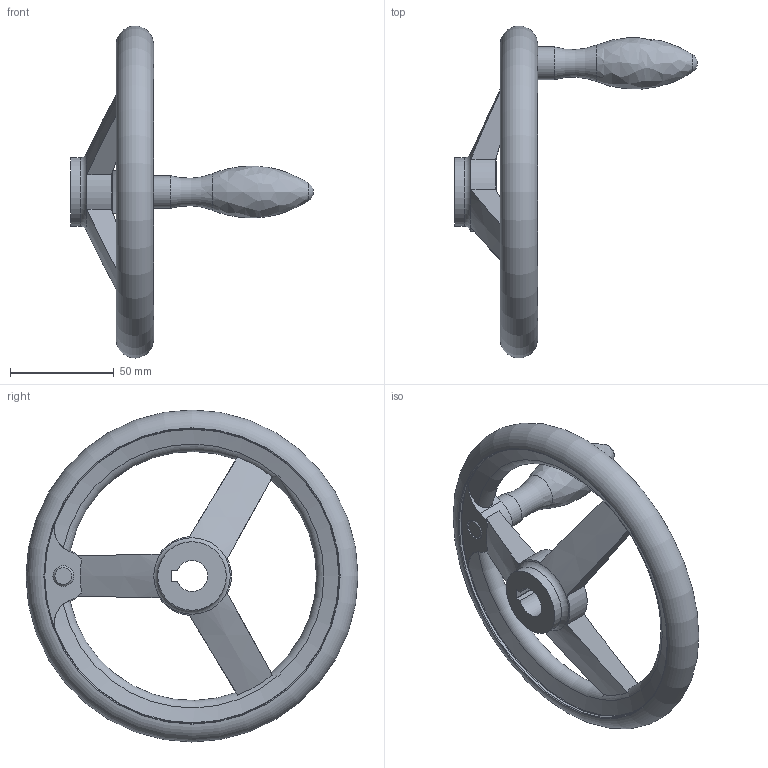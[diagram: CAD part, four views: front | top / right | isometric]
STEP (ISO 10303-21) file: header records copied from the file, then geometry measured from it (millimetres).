
FILE_DESCRIPTION( ( 'STEP AP203' ), '1' );
FILE_NAME( 'C:/Temp/Ganter_Step_05_03_2020/data/1_3/din_950/din_950_k/din_950_k_f/Handwheel DIN 950-GG-160-K15-F.stp', '2020-03-05T10:31:15', ( 'License CC BY-ND 4.0' ), ( 'CADENAS' ), ' ', 'PARTsolutions', ' ' );
FILE_SCHEMA( ( 'CONFIG_CONTROL_DESIGN' ) );
Length unit declared in the file: millimetre
Products named in the file (1): _Handwheel DIN 950-GG-160-K15-F
Bounding box: 117 x 159.99 x 159.99 mm (x, y, z)
Volume: 173150.2 mm3; surface area: 43565.4 mm2
Topology: 1 solids, 1 shells, 47 faces, 133 edges, 85 vertices
Faces by surface type: cylinder 15, plane 14, torus 11, cone 5, sphere 1, bspline 1
Full cylindrical faces by diameter (mm): 10 x1, 15.8 x1, 33 x2, 142 x2
Entity records: 1759 total; most frequent: CARTESIAN_POINT 631, DIRECTION 218, ORIENTED_EDGE 212, EDGE_CURVE 106, AXIS2_PLACEMENT_3D 98, VERTEX_POINT 79, EDGE_LOOP 71, FACE_OUTER_BOUND 62
